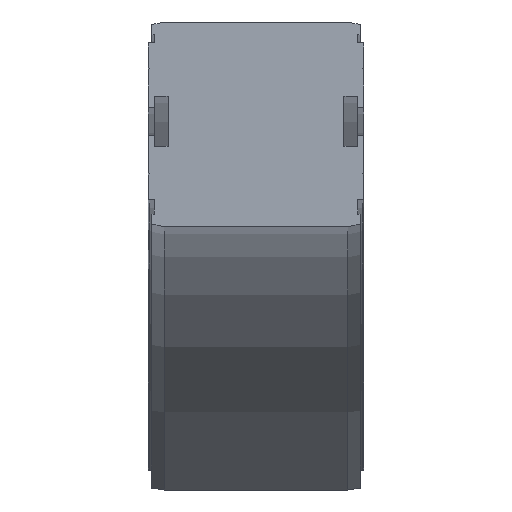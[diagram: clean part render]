
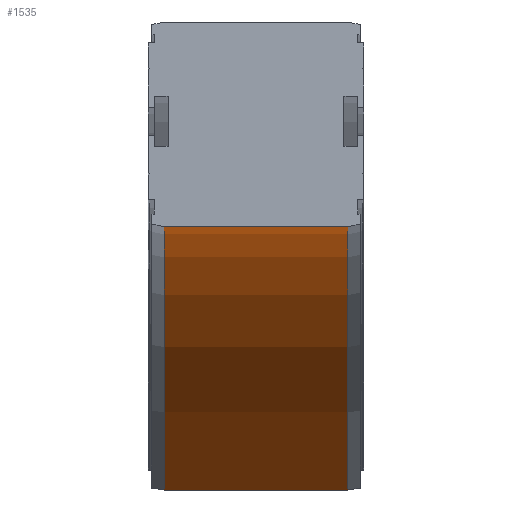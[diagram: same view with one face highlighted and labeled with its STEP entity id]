
A CAD part, left-side view. The second image highlights one B-rep face of the part: STEP entity #1535.
In plain terms, the highlighted cylindrical face has radius 358 mm (diameter 716 mm), a partial arc.
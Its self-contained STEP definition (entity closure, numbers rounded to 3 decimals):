
#1494=CARTESIAN_POINT('',(0.,-18.25,-439.5));
#1495=DIRECTION('',(0.0,1.0,0.0));
#1496=DIRECTION('',(0.0,0.0,1.0));
#1497=AXIS2_PLACEMENT_3D('',#1494,#1495,#1496);
#1498=CYLINDRICAL_SURFACE('',#1497,358.);
#1499=CARTESIAN_POINT('',(253.144,36.5,-186.356));
#1500=VERTEX_POINT('',#1499);
#1501=CARTESIAN_POINT('',(253.144,-36.5,-186.356));
#1502=VERTEX_POINT('',#1501);
#1503=CARTESIAN_POINT('',(253.144,36.5,-186.356));
#1504=DIRECTION('',(0.0,-1.0,0.0));
#1505=VECTOR('',#1504,73.0);
#1506=LINE('',#1503,#1505);
#1507=EDGE_CURVE('',#1500,#1502,#1506,.T.);
#1508=ORIENTED_EDGE('',*,*,#1507,.T.);
#1509=CARTESIAN_POINT('',(0.0,-36.5,-81.5));
#1510=VERTEX_POINT('',#1509);
#1511=CARTESIAN_POINT('',(0.,-36.5,-439.5));
#1512=DIRECTION('',(0.0,1.0,0.0));
#1513=DIRECTION('',(0.0,0.0,1.0));
#1514=AXIS2_PLACEMENT_3D('',#1511,#1512,#1513);
#1515=CIRCLE('',#1514,358.);
#1516=EDGE_CURVE('',#1510,#1502,#1515,.T.);
#1517=ORIENTED_EDGE('',*,*,#1516,.F.);
#1518=CARTESIAN_POINT('',(0.0,36.5,-81.5));
#1519=VERTEX_POINT('',#1518);
#1520=CARTESIAN_POINT('',(0.0,-36.5,-81.5));
#1521=DIRECTION('',(0.0,1.0,0.0));
#1522=VECTOR('',#1521,73.0);
#1523=LINE('',#1520,#1522);
#1524=EDGE_CURVE('',#1510,#1519,#1523,.T.);
#1525=ORIENTED_EDGE('',*,*,#1524,.T.);
#1526=CARTESIAN_POINT('',(0.,36.5,-439.5));
#1527=DIRECTION('',(0.0,1.0,0.0));
#1528=DIRECTION('',(0.0,0.0,1.0));
#1529=AXIS2_PLACEMENT_3D('',#1526,#1527,#1528);
#1530=CIRCLE('',#1529,358.);
#1531=EDGE_CURVE('',#1519,#1500,#1530,.T.);
#1532=ORIENTED_EDGE('',*,*,#1531,.T.);
#1533=EDGE_LOOP('',(#1508,#1517,#1525,#1532));
#1534=FACE_OUTER_BOUND('',#1533,.T.);
#1535=ADVANCED_FACE('',(#1534),#1498,.F.);
